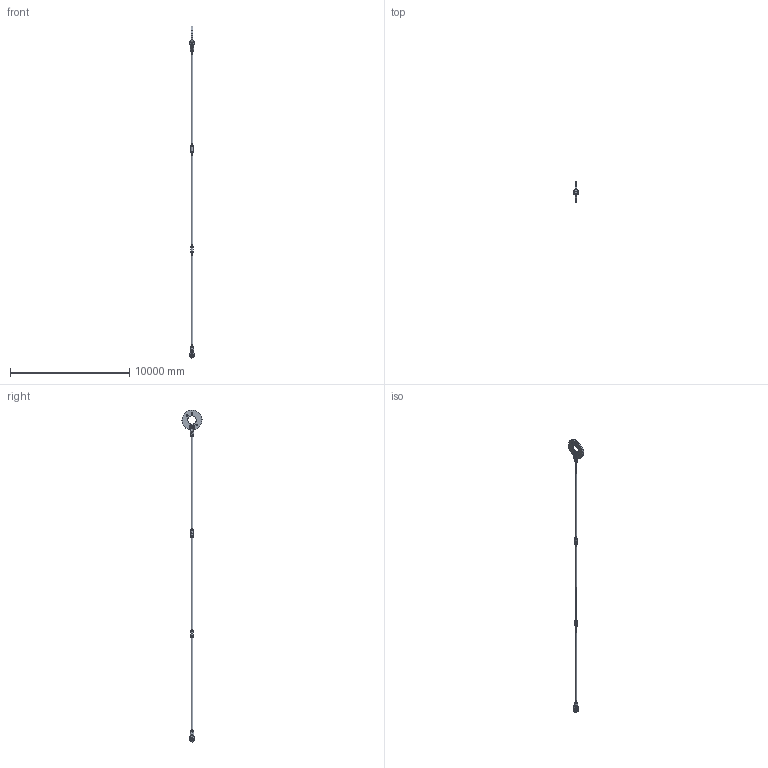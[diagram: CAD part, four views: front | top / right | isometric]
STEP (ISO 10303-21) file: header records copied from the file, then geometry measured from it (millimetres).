
FILE_DESCRIPTION(/* description */ (''),/* implementation_level */ '2;1');
FILE_NAME(/* name */ 'C:\Vault-WS\Anker\Werksnorm\Hochbau\ASDO-System\ASDO-S\für Kunden\3d\Step\M 140.stp',/* time_stamp */ '2014-06-12T09:57:56+02:00',/* author */ ('ritgen'),/* organization */ (''),/* preprocessor_version */ 'ST-DEVELOPER v15.2',/* originating_system */ 'Autodesk Inventor 2014',/* authorisation */ '');
FILE_SCHEMA (('AUTOMOTIVE_DESIGN { 1 0 10303 214 3 1 1 }'));
Length unit declared in the file: millimetre
Products named in the file (11): ASDO-005778; ASDO-014283; ASDO-014333; DIN 7991 - M20x50 - 8.8; ASDO-013952; ASDO-001746; ASDO-001373; ASDO-001472; ASDO-006512; ASDO-014082; ASDO-006511
Bounding box: 352.45 x 1688.39 x 27888.62 mm (x, y, z)
Volume: 734121033.4 mm3; surface area: 21492924.7 mm2
Topology: 24 solids, 24 shells, 501 faces, 1078 edges, 653 vertices
Faces by surface type: plane 152, bspline 144, cylinder 95, cone 60, torus 50
Full cylindrical faces by diameter (mm): 11 x18, 17.294 x4, 20 x4, 22.5 x4, 25 x4, 36 x4, 133.505 x12, 140 x5, 142 x7, 143 x8, 145 x1, 146 x6, 202 x6, 204 x4, 229 x2, 700 x1, 1690 x1
Entity records: 14312 total; most frequent: CARTESIAN_POINT 10036, ORIENTED_EDGE 756, DIRECTION 754, EDGE_CURVE 378, AXIS2_PLACEMENT_3D 355, EDGE_LOOP 344, VERTEX_POINT 272, ADVANCED_FACE 218
